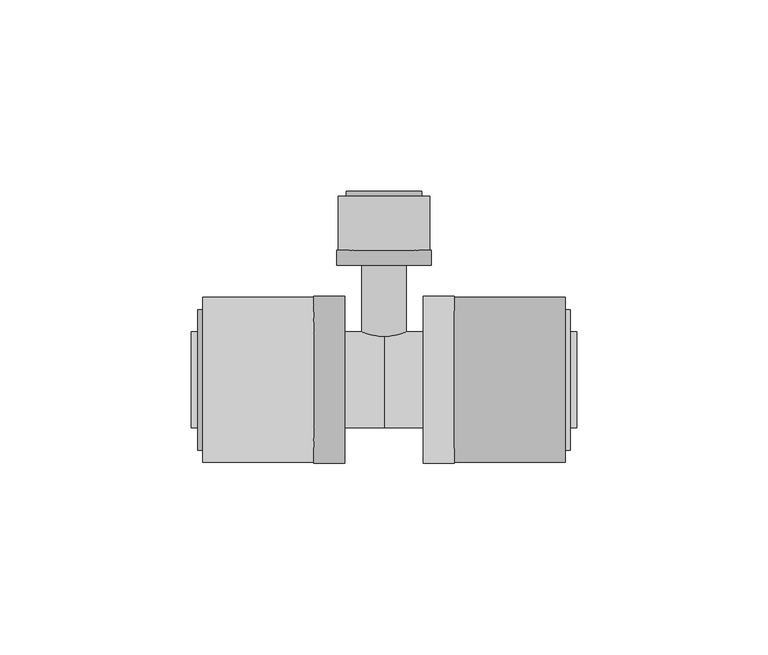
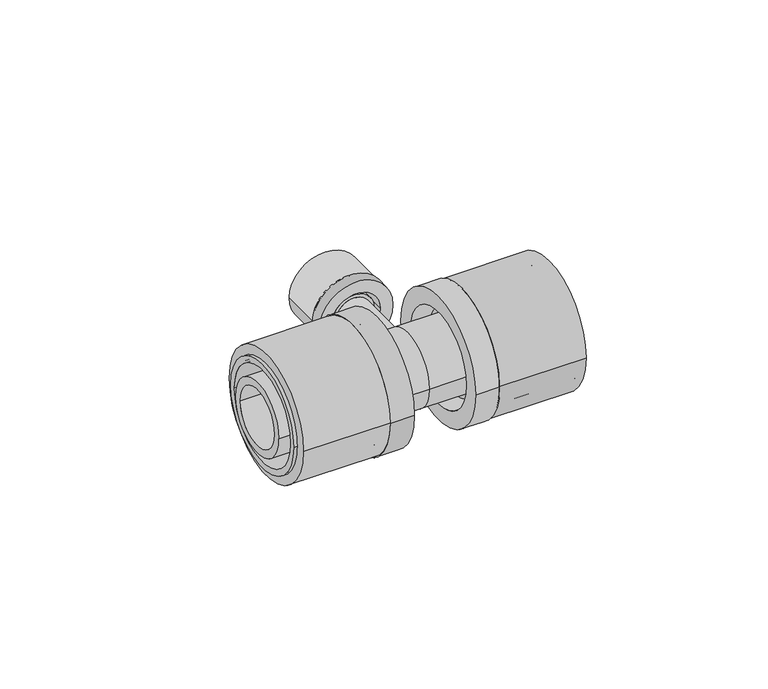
"""IFC4 building model written with IfcOpenShell, lengths in millimetres: pipe fitting geometry, FASTLOC_T-piece_LX : FSL T-Piece LX CZ."""

from ifc_helpers import new_model, si_unit, point, frame, origin, origin_2d, place, context, project, spatial, polyline, circle_curve, trimmed, segment, composite_curve, outline, extrude, source, transform, mapped, element, save
from ifc_brep_helpers import plane_surface, cylinder_surface, revolved_surface, advanced_brep


def pipe_fitting_a094db19(model_context):
    return source(origin(), model_context, "Body", "SolidModel", [
        extrude(outline(composite_curve([segment(trimmed(circle_curve(origin_2d(), 21.5), [point((-21.5, 0.0))], [point((21.5, 0.0))], False, "CARTESIAN"), True, "CONTINUOUS"), segment(trimmed(circle_curve(origin_2d(), 21.5), [point((21.5, 0.0))], [point((-21.5, 0.0))], False, "CARTESIAN"), True, "CONTINUOUS")], self_intersect=False), holes=[composite_curve([segment(trimmed(circle_curve(origin_2d(), 16.85), [point((-16.85, 0.0))], [point((16.85, 0.0))], True, "CARTESIAN"), True, "CONTINUOUS"), segment(trimmed(circle_curve(origin_2d(), 16.85), [point((16.85, 0.0))], [point((-16.85, 0.0))], True, "CARTESIAN"), True, "CONTINUOUS")], self_intersect=False)]), frame((18.3, 0.0, 0.0), z_axis=(1.0, 0.0, 0.0), x_axis=(0.0, 1.0, 0.0)), (0.0, 0.0, 1.0), 29.0),
        advanced_brep(
        [(18.3, 21.8, 0.0), (18.3, -21.8, 0.0), (10.3, -21.8, 0.0), (10.3, 21.8, 0.0), (48.6, 18.35, 0.0), (48.6, -18.35, 0.0), (18.3, -18.35, 0.0), (18.3, 18.35, 0.0), (10.3, 16.2, 0.0), (10.3, -16.2, 0.0), (48.6, -16.2, 0.0), (48.6, 16.2, 0.0)],
        [
            (0, 1, circle_curve(frame((18.3, 0.0, 0.0), z_axis=(-1.0, 0.0, 0.0), x_axis=(0.0, -1.0, 0.0)), 21.8)),
            (1, 2),
            (2, 3, circle_curve(frame((10.3, 0.0, 0.0), z_axis=(1.0, 0.0, 0.0), x_axis=(0.0, -1.0, 0.0)), 21.8)),
            (3, 0),
            (4, 5, circle_curve(frame((48.6, 0.0, 0.0), z_axis=(-1.0, 0.0, 0.0), x_axis=(0.0, -1.0, 0.0)), 18.35)),
            (5, 6),
            (6, 7, circle_curve(frame((18.3, 0.0, 0.0), z_axis=(1.0, 0.0, 0.0), x_axis=(0.0, -1.0, 0.0)), 18.35)),
            (7, 4),
            (8, 9, circle_curve(frame((10.3, 0.0, 0.0), z_axis=(-1.0, 0.0, 0.0), x_axis=(0.0, -1.0, 0.0)), 16.2)),
            (9, 10),
            (10, 11, circle_curve(frame((48.6, 0.0, 0.0), z_axis=(1.0, 0.0, 0.0), x_axis=(0.0, -1.0, 0.0)), 16.2)),
            (11, 8),
            (1, 0, circle_curve(frame((18.3, 0.0, 0.0), z_axis=(-1.0, 0.0, 0.0), x_axis=(0.0, 1.0, 0.0)), 21.8)),
            (3, 2, circle_curve(frame((10.3, 0.0, 0.0), z_axis=(1.0, 0.0, 0.0), x_axis=(0.0, 1.0, 0.0)), 21.8)),
            (6, 7, circle_curve(frame((18.3, 0.0, 0.0), z_axis=(-1.0, 0.0, 0.0), x_axis=(0.0, 1.0, 0.0)), 18.35)),
            (5, 4, circle_curve(frame((48.6, 0.0, 0.0), z_axis=(-1.0, 0.0, 0.0), x_axis=(0.0, 1.0, 0.0)), 18.35)),
            (10, 11, circle_curve(frame((48.6, 0.0, 0.0), z_axis=(-1.0, 0.0, 0.0), x_axis=(0.0, 1.0, 0.0)), 16.2)),
            (9, 8, circle_curve(frame((10.3, 0.0, 0.0), z_axis=(-1.0, 0.0, 0.0), x_axis=(0.0, 1.0, 0.0)), 16.2)),
        ],
        [
            cylinder_surface(frame((10.3, 0.0, 0.0), z_axis=(1.0, 0.0, 0.0), x_axis=(0.0, -1.0, 0.0)), 21.8),
            cylinder_surface(frame((10.3, 0.0, 0.0), z_axis=(1.0, 0.0, 0.0), x_axis=(0.0, -1.0, 0.0)), 18.35),
            revolved_surface(polyline([(48.599999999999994, -16.2, 0.0), (10.3, -16.2, 0.0)]), (10.3, 0.0, 0.0), (1.0, 0.0, 0.0)),
            cylinder_surface(frame((10.3, 0.0, 0.0), z_axis=(1.0, 0.0, 0.0), x_axis=(0.0, 1.0, 0.0)), 21.8),
            plane_surface(frame((18.3, 0.0, 0.0), z_axis=(1.0, 0.0, 0.0), x_axis=(0.0, 1.0, 0.0))),
            cylinder_surface(frame((10.3, 0.0, 0.0), z_axis=(1.0, 0.0, 0.0), x_axis=(0.0, 1.0, 0.0)), 18.35),
            plane_surface(frame((48.6, 0.0, 0.0), z_axis=(1.0, 0.0, 0.0), x_axis=(0.0, 1.0, 0.0))),
            revolved_surface(polyline([(48.599999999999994, 16.2, 0.0), (10.3, 16.2, 0.0)]), (10.3, 0.0, 0.0), (1.0, 0.0, 0.0)),
            plane_surface(frame((10.3, 0.0, 0.0), z_axis=(-1.0, 0.0, 0.0), x_axis=(0.0, 1.0, 0.0))),
        ],
        [
            (0, [[1, 2, 3, 4]]),
            (1, [[5, 6, 7, 8]]),
            (2, [[9, 10, 11, 12]]),
            (3, [[13, -4, 14, -2]]),
            (4, [[-13, -1], [15, -7]]),
            (5, [[16, -8, -15, -6]]),
            (6, [[-16, -5], [17, -11]]),
            (7, [[18, -12, -17, -10]]),
            (8, [[-14, -3], [-18, -9]]),
        ],
    ),
        extrude(outline(composite_curve([segment(trimmed(circle_curve(origin_2d(), 21.5), [point((21.5, 0.0))], [point((-21.5, 0.0))], False, "CARTESIAN"), True, "CONTINUOUS"), segment(trimmed(circle_curve(origin_2d(), 21.5), [point((-21.5, 0.0))], [point((21.5, 0.0))], False, "CARTESIAN"), True, "CONTINUOUS")], self_intersect=False), holes=[composite_curve([segment(trimmed(circle_curve(origin_2d(), 16.85), [point((16.85, 0.0))], [point((-16.85, 0.0))], True, "CARTESIAN"), True, "CONTINUOUS"), segment(trimmed(circle_curve(origin_2d(), 16.85), [point((-16.85, 0.0))], [point((16.85, 0.0))], True, "CARTESIAN"), True, "CONTINUOUS")], self_intersect=False)]), frame((-47.3, 0.0, 0.0), z_axis=(1.0, 0.0, 0.0), x_axis=(0.0, 1.0, 0.0)), (0.0, 0.0, 1.0), 29.0),
        advanced_brep(
        [(-18.3, -21.8, 0.0), (-18.3, 21.8, 0.0), (-10.3, 21.8, 0.0), (-10.3, -21.8, 0.0), (-48.6, -18.35, 0.0), (-48.6, 18.35, 0.0), (-18.3, 18.35, 0.0), (-18.3, -18.35, 0.0), (-10.3, -16.2, 0.0), (-10.3, 16.2, 0.0), (-48.6, 16.2, 0.0), (-48.6, -16.2, 0.0)],
        [
            (0, 1, circle_curve(frame((-18.3, 0.0, 0.0), z_axis=(1.0, 0.0, 0.0), x_axis=(0.0, 1.0, 0.0)), 21.8)),
            (1, 2),
            (2, 3, circle_curve(frame((-10.3, 0.0, 0.0), z_axis=(-1.0, 0.0, 0.0), x_axis=(0.0, 1.0, 0.0)), 21.8)),
            (3, 0),
            (4, 5, circle_curve(frame((-48.6, 0.0, 0.0), z_axis=(1.0, 0.0, 0.0), x_axis=(0.0, 1.0, 0.0)), 18.35)),
            (5, 6),
            (6, 7, circle_curve(frame((-18.3, 0.0, 0.0), z_axis=(-1.0, 0.0, 0.0), x_axis=(0.0, 1.0, 0.0)), 18.35)),
            (7, 4),
            (8, 9, circle_curve(frame((-10.3, 0.0, 0.0), z_axis=(1.0, 0.0, 0.0), x_axis=(0.0, 1.0, 0.0)), 16.2)),
            (9, 10),
            (10, 11, circle_curve(frame((-48.6, 0.0, 0.0), z_axis=(-1.0, 0.0, 0.0), x_axis=(0.0, 1.0, 0.0)), 16.2)),
            (11, 8),
            (1, 0, circle_curve(frame((-18.3, 0.0, 0.0), z_axis=(1.0, 0.0, 0.0), x_axis=(0.0, -1.0, 0.0)), 21.8)),
            (3, 2, circle_curve(frame((-10.3, 0.0, 0.0), z_axis=(-1.0, 0.0, 0.0), x_axis=(0.0, -1.0, 0.0)), 21.8)),
            (6, 7, circle_curve(frame((-18.3, 0.0, 0.0), z_axis=(1.0, 0.0, 0.0), x_axis=(0.0, -1.0, 0.0)), 18.35)),
            (5, 4, circle_curve(frame((-48.6, 0.0, 0.0), z_axis=(1.0, 0.0, 0.0), x_axis=(0.0, -1.0, 0.0)), 18.35)),
            (10, 11, circle_curve(frame((-48.6, 0.0, 0.0), z_axis=(1.0, 0.0, 0.0), x_axis=(0.0, -1.0, 0.0)), 16.2)),
            (9, 8, circle_curve(frame((-10.3, 0.0, 0.0), z_axis=(1.0, 0.0, 0.0), x_axis=(0.0, -1.0, 0.0)), 16.2)),
        ],
        [
            cylinder_surface(frame((-10.3, 0.0, 0.0), z_axis=(-1.0, 0.0, 0.0), x_axis=(0.0, 1.0, 0.0)), 21.8),
            cylinder_surface(frame((-10.3, 0.0, 0.0), z_axis=(-1.0, 0.0, 0.0), x_axis=(0.0, 1.0, 0.0)), 18.35),
            revolved_surface(polyline([(-48.599999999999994, 16.2, 0.0), (-10.3, 16.2, 0.0)]), (-10.3, 0.0, 0.0), (-1.0, 0.0, 0.0)),
            cylinder_surface(frame((-10.3, 0.0, 0.0), z_axis=(-1.0, 0.0, 0.0), x_axis=(0.0, -1.0, 0.0)), 21.8),
            plane_surface(frame((-18.3, 0.0, 0.0), z_axis=(-1.0, 0.0, 0.0), x_axis=(0.0, -1.0, 0.0))),
            cylinder_surface(frame((-10.3, 0.0, 0.0), z_axis=(-1.0, 0.0, 0.0), x_axis=(0.0, -1.0, 0.0)), 18.35),
            plane_surface(frame((-48.6, 0.0, 0.0), z_axis=(-1.0, 0.0, 0.0), x_axis=(0.0, -1.0, 0.0))),
            revolved_surface(polyline([(-48.599999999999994, -16.2, 0.0), (-10.3, -16.2, 0.0)]), (-10.3, 0.0, 0.0), (-1.0, 0.0, 0.0)),
            plane_surface(frame((-10.3, 0.0, 0.0), z_axis=(1.0, 0.0, 0.0), x_axis=(0.0, -1.0, 0.0))),
        ],
        [
            (0, [[1, 2, 3, 4]]),
            (1, [[5, 6, 7, 8]]),
            (2, [[9, 10, 11, 12]]),
            (3, [[13, -4, 14, -2]]),
            (4, [[-13, -1], [15, -7]]),
            (5, [[16, -8, -15, -6]]),
            (6, [[-16, -5], [17, -11]]),
            (7, [[18, -12, -17, -10]]),
            (8, [[-14, -3], [-18, -9]]),
        ],
    ),
        extrude(outline(composite_curve([segment(trimmed(circle_curve(origin_2d(), 12.0), [point((0.0, 12.0))], [point((0.0, -12.0))], False, "CARTESIAN"), True, "CONTINUOUS"), segment(trimmed(circle_curve(origin_2d(), 12.0), [point((0.0, -12.0))], [point((0.0, 12.0))], False, "CARTESIAN"), True, "CONTINUOUS")], self_intersect=False), holes=[composite_curve([segment(trimmed(circle_curve(origin_2d(), 8.85), [point((0.0, 8.85))], [point((0.0, -8.85))], True, "CARTESIAN"), True, "CONTINUOUS"), segment(trimmed(circle_curve(origin_2d(), 8.85), [point((0.0, -8.85))], [point((0.0, 8.85))], True, "CARTESIAN"), True, "CONTINUOUS")], self_intersect=False)]), frame((0.0, 33.9, 0.0), z_axis=(0.0, 1.0, 0.0), x_axis=(0.0, 0.0, 1.0)), (0.0, 0.0, 1.0), 14.0),
        advanced_brep(
        [(-12.35, 33.9, 0.0), (12.35, 33.9, 0.0), (12.35, 29.9, 0.0), (-12.35, 29.9, 0.0), (-9.85, 49.2, 0.0), (9.85, 49.2, 0.0), (9.85, 33.9, 0.0), (-9.85, 33.9, 0.0), (-8.15, 29.9, 0.0), (8.15, 29.9, 0.0), (8.15, 49.2, 0.0), (-8.15, 49.2, 0.0)],
        [
            (0, 1, circle_curve(frame((0.0, 33.9, 0.0), z_axis=(0.0, -1.0, 0.0), x_axis=(1.0, 0.0, 0.0)), 12.35)),
            (1, 2),
            (2, 3, circle_curve(frame((0.0, 29.9, 0.0), z_axis=(0.0, 1.0, 0.0), x_axis=(1.0, 0.0, 0.0)), 12.35)),
            (3, 0),
            (4, 5, circle_curve(frame((0.0, 49.2, 0.0), z_axis=(0.0, -1.0, 0.0), x_axis=(1.0, 0.0, 0.0)), 9.85)),
            (5, 6),
            (6, 7, circle_curve(frame((0.0, 33.9, 0.0), z_axis=(0.0, 1.0, 0.0), x_axis=(1.0, 0.0, 0.0)), 9.85)),
            (7, 4),
            (8, 9, circle_curve(frame((0.0, 29.9, 0.0), z_axis=(0.0, -1.0, 0.0), x_axis=(1.0, 0.0, 0.0)), 8.15)),
            (9, 10),
            (10, 11, circle_curve(frame((0.0, 49.2, 0.0), z_axis=(0.0, 1.0, 0.0), x_axis=(1.0, 0.0, 0.0)), 8.15)),
            (11, 8),
            (1, 0, circle_curve(frame((0.0, 33.9, 0.0), z_axis=(0.0, -1.0, 0.0), x_axis=(-1.0, 0.0, 0.0)), 12.35)),
            (3, 2, circle_curve(frame((0.0, 29.9, 0.0), z_axis=(0.0, 1.0, 0.0), x_axis=(-1.0, 0.0, 0.0)), 12.35)),
            (6, 7, circle_curve(frame((0.0, 33.9, 0.0), z_axis=(0.0, -1.0, 0.0), x_axis=(-1.0, 0.0, 0.0)), 9.85)),
            (5, 4, circle_curve(frame((0.0, 49.2, 0.0), z_axis=(0.0, -1.0, 0.0), x_axis=(-1.0, 0.0, 0.0)), 9.85)),
            (10, 11, circle_curve(frame((0.0, 49.2, 0.0), z_axis=(0.0, -1.0, 0.0), x_axis=(-1.0, 0.0, 0.0)), 8.15)),
            (9, 8, circle_curve(frame((0.0, 29.9, 0.0), z_axis=(0.0, -1.0, 0.0), x_axis=(-1.0, 0.0, 0.0)), 8.15)),
        ],
        [
            cylinder_surface(frame((0.0, 29.9, 0.0), z_axis=(0.0, 1.0, 0.0), x_axis=(1.0, 0.0, 0.0)), 12.35),
            cylinder_surface(frame((0.0, 29.9, 0.0), z_axis=(0.0, 1.0, 0.0), x_axis=(1.0, 0.0, 0.0)), 9.85),
            revolved_surface(polyline([(8.15, 49.2, 0.0), (8.15, 29.9, 0.0)]), (0.0, 29.9, 0.0), (0.0, 1.0, 0.0)),
            cylinder_surface(frame((0.0, 29.9, 0.0), z_axis=(0.0, 1.0, 0.0), x_axis=(-1.0, 0.0, 0.0)), 12.35),
            plane_surface(frame((0.0, 33.9, 0.0), z_axis=(0.0, 1.0, 0.0), x_axis=(-1.0, 0.0, 0.0))),
            cylinder_surface(frame((0.0, 29.9, 0.0), z_axis=(0.0, 1.0, 0.0), x_axis=(-1.0, 0.0, 0.0)), 9.85),
            plane_surface(frame((0.0, 49.2, 0.0), z_axis=(0.0, 1.0, 0.0), x_axis=(-1.0, 0.0, 0.0))),
            revolved_surface(polyline([(-8.15, 49.2, 0.0), (-8.15, 29.9, 0.0)]), (0.0, 29.9, 0.0), (0.0, 1.0, 0.0)),
            plane_surface(frame((0.0, 29.9, 0.0), z_axis=(0.0, -1.0, 0.0), x_axis=(-1.0, 0.0, 0.0))),
        ],
        [
            (0, [[1, 2, 3, 4]]),
            (1, [[5, 6, 7, 8]]),
            (2, [[9, 10, 11, 12]]),
            (3, [[13, -4, 14, -2]]),
            (4, [[-13, -1], [15, -7]]),
            (5, [[16, -8, -15, -6]]),
            (6, [[-16, -5], [17, -11]]),
            (7, [[18, -12, -17, -10]]),
            (8, [[-14, -3], [-18, -9]]),
        ],
    ),
        advanced_brep(
        [(0.0, 12.5, 0.0), (0.0, -12.5, 0.0), (-15.3, -12.5, 0.0), (-15.3, 12.5, 0.0), (15.3, 12.5, 0.0), (15.3, -12.5, 0.0), (18.3, 14.1, 0.0), (18.3, -14.1, 0.0), (15.3, -14.1, 0.0), (15.3, 14.1, 0.0), (50.3, 12.5, 0.0), (50.3, -12.5, 0.0), (18.3, -12.5, 0.0), (18.3, 12.5, 0.0), (-18.3, 12.5, 0.0), (-18.3, -12.5, 0.0), (-50.3, -12.5, 0.0), (-50.3, 12.5, 0.0), (-15.3, 14.1, 0.0), (-15.3, -14.1, 0.0), (-18.3, -14.1, 0.0), (-18.3, 14.1, 0.0), (50.3, -9.85, 0.0), (50.3, 9.85, 0.0), (-50.3, 9.85, 0.0), (-50.3, -9.85, 0.0), (0.0, 9.85, 0.0), (0.0, -9.85, 0.0)],
        [
            (0, 1, circle_curve(frame((0.0, 0.0, 0.0), z_axis=(-1.0, 0.0, 0.0), x_axis=(0.0, -1.0, 0.0)), 12.5)),
            (1, 2),
            (2, 3, circle_curve(frame((-15.3, 0.0, 0.0), z_axis=(1.0, 0.0, 0.0), x_axis=(0.0, -1.0, 0.0)), 12.5)),
            (3, 0),
            (4, 5, circle_curve(frame((15.3, 0.0, 0.0), z_axis=(-1.0, 0.0, 0.0), x_axis=(0.0, -1.0, 0.0)), 12.5)),
            (5, 1),
            (0, 4),
            (6, 7, circle_curve(frame((18.3, 0.0, 0.0), z_axis=(-1.0, 0.0, 0.0), x_axis=(0.0, -1.0, 0.0)), 14.1)),
            (7, 8),
            (8, 9, circle_curve(frame((15.3, 0.0, 0.0), z_axis=(1.0, 0.0, 0.0), x_axis=(0.0, -1.0, 0.0)), 14.1)),
            (9, 6),
            (10, 11, circle_curve(frame((50.3, 0.0, 0.0), z_axis=(-1.0, 0.0, 0.0), x_axis=(0.0, -1.0, 0.0)), 12.5)),
            (11, 12),
            (12, 13, circle_curve(frame((18.3, 0.0, 0.0), z_axis=(1.0, 0.0, 0.0), x_axis=(0.0, -1.0, 0.0)), 12.5)),
            (13, 10),
            (14, 15, circle_curve(frame((-18.3, 0.0, 0.0), z_axis=(-1.0, 0.0, 0.0), x_axis=(0.0, -1.0, 0.0)), 12.5)),
            (15, 16),
            (16, 17, circle_curve(frame((-50.3, 0.0, 0.0), z_axis=(1.0, 0.0, 0.0), x_axis=(0.0, -1.0, 0.0)), 12.5)),
            (17, 14),
            (18, 19, circle_curve(frame((-15.3, 0.0, 0.0), z_axis=(-1.0, 0.0, 0.0), x_axis=(0.0, -1.0, 0.0)), 14.1)),
            (19, 20),
            (20, 21, circle_curve(frame((-18.3, 0.0, 0.0), z_axis=(1.0, 0.0, 0.0), x_axis=(0.0, -1.0, 0.0)), 14.1)),
            (21, 18),
            (18, 19, circle_curve(frame((-15.3, 0.0, 0.0), z_axis=(1.0, 0.0, 0.0), x_axis=(0.0, 1.0, 0.0)), 14.1)),
            (2, 3, circle_curve(frame((-15.3, 0.0, 0.0), z_axis=(-1.0, 0.0, 0.0), x_axis=(0.0, 1.0, 0.0)), 12.5)),
            (1, 0, circle_curve(frame((0.0, 0.0, 0.0), z_axis=(-1.0, 0.0, 0.0), x_axis=(0.0, 1.0, 0.0)), 12.5)),
            (5, 4, circle_curve(frame((15.3, 0.0, 0.0), z_axis=(-1.0, 0.0, 0.0), x_axis=(0.0, 1.0, 0.0)), 12.5)),
            (8, 9, circle_curve(frame((15.3, 0.0, 0.0), z_axis=(-1.0, 0.0, 0.0), x_axis=(0.0, 1.0, 0.0)), 14.1)),
            (7, 6, circle_curve(frame((18.3, 0.0, 0.0), z_axis=(-1.0, 0.0, 0.0), x_axis=(0.0, 1.0, 0.0)), 14.1)),
            (12, 13, circle_curve(frame((18.3, 0.0, 0.0), z_axis=(-1.0, 0.0, 0.0), x_axis=(0.0, 1.0, 0.0)), 12.5)),
            (11, 10, circle_curve(frame((50.3, 0.0, 0.0), z_axis=(-1.0, 0.0, 0.0), x_axis=(0.0, 1.0, 0.0)), 12.5)),
            (22, 23, circle_curve(frame((50.3, 0.0, 0.0), z_axis=(-1.0, 0.0, 0.0), x_axis=(0.0, 1.0, 0.0)), 9.85)),
            (23, 22, circle_curve(frame((50.3, 0.0, 0.0), z_axis=(-1.0, 0.0, 0.0), x_axis=(0.0, -1.0, 0.0)), 9.85)),
            (16, 17, circle_curve(frame((-50.3, 0.0, 0.0), z_axis=(-1.0, 0.0, 0.0), x_axis=(0.0, 1.0, 0.0)), 12.5)),
            (24, 25, circle_curve(frame((-50.3, 0.0, 0.0), z_axis=(1.0, 0.0, 0.0), x_axis=(0.0, 1.0, 0.0)), 9.85)),
            (25, 24, circle_curve(frame((-50.3, 0.0, 0.0), z_axis=(1.0, 0.0, 0.0), x_axis=(0.0, -1.0, 0.0)), 9.85)),
            (15, 14, circle_curve(frame((-18.3, 0.0, 0.0), z_axis=(-1.0, 0.0, 0.0), x_axis=(0.0, 1.0, 0.0)), 12.5)),
            (20, 21, circle_curve(frame((-18.3, 0.0, 0.0), z_axis=(-1.0, 0.0, 0.0), x_axis=(0.0, 1.0, 0.0)), 14.1)),
            (26, 27, circle_curve(frame((0.0, 0.0, 0.0), z_axis=(-1.0, 0.0, 0.0), x_axis=(0.0, -1.0, 0.0)), 9.85)),
            (27, 22),
            (23, 26),
            (25, 27),
            (26, 24),
            (27, 26, circle_curve(frame((0.0, 0.0, 0.0), z_axis=(-1.0, 0.0, 0.0), x_axis=(0.0, 1.0, 0.0)), 9.85)),
        ],
        [
            cylinder_surface(frame((0.0, 0.0, 0.0), z_axis=(1.0, 0.0, 0.0), x_axis=(0.0, -1.0, 0.0)), 12.5),
            cylinder_surface(frame((0.0, 0.0, 0.0), z_axis=(1.0, 0.0, 0.0), x_axis=(0.0, -1.0, 0.0)), 14.1),
            plane_surface(frame((-15.3, 0.0, 0.0), z_axis=(1.0, 0.0, 0.0), x_axis=(0.0, 1.0, 0.0))),
            cylinder_surface(frame((0.0, 0.0, 0.0), z_axis=(1.0, 0.0, 0.0), x_axis=(0.0, 1.0, 0.0)), 12.5),
            plane_surface(frame((15.3, 0.0, 0.0), z_axis=(-1.0, 0.0, 0.0), x_axis=(0.0, 1.0, 0.0))),
            cylinder_surface(frame((0.0, 0.0, 0.0), z_axis=(1.0, 0.0, 0.0), x_axis=(0.0, 1.0, 0.0)), 14.1),
            plane_surface(frame((18.3, 0.0, 0.0), z_axis=(1.0, 0.0, 0.0), x_axis=(0.0, 1.0, 0.0))),
            plane_surface(frame((50.3, 0.0, 0.0), z_axis=(1.0, 0.0, 0.0), x_axis=(0.0, 1.0, 0.0))),
            plane_surface(frame((-50.3, 0.0, 0.0), z_axis=(-1.0, 0.0, 0.0), x_axis=(0.0, 1.0, 0.0))),
            plane_surface(frame((-18.3, 0.0, 0.0), z_axis=(-1.0, 0.0, 0.0), x_axis=(0.0, 1.0, 0.0))),
            revolved_surface(polyline([(50.3, -9.85, 0.0), (0.0, -9.85, 0.0)]), (0.0, 0.0, 0.0), (1.0, 0.0, 0.0)),
            revolved_surface(polyline([(0.0, -9.85, 0.0), (-50.3, -9.85, 0.0)]), (0.0, 0.0, 0.0), (1.0, 0.0, 0.0)),
            revolved_surface(polyline([(50.3, 9.85, 0.0), (0.0, 9.85, 0.0)]), (0.0, 0.0, 0.0), (1.0, 0.0, 0.0)),
            revolved_surface(polyline([(0.0, 9.85, 0.0), (-50.3, 9.85, 0.0)]), (0.0, 0.0, 0.0), (1.0, 0.0, 0.0)),
        ],
        [
            (0, [[1, 2, 3, 4]]),
            (0, [[5, 6, -1, 7]]),
            (1, [[8, 9, 10, 11]]),
            (0, [[12, 13, 14, 15]]),
            (0, [[16, 17, 18, 19]]),
            (1, [[20, 21, 22, 23]]),
            (2, [[24, -20], [25, -3]]),
            (3, [[26, -4, -25, -2]]),
            (3, [[27, -7, -26, -6]]),
            (4, [[28, -10], [-27, -5]]),
            (5, [[29, -11, -28, -9]]),
            (6, [[-29, -8], [30, -14]]),
            (3, [[31, -15, -30, -13]]),
            (7, [[-31, -12], [32, 33]]),
            (8, [[34, -18], [35, 36]]),
            (3, [[37, -19, -34, -17]]),
            (9, [[38, -22], [-37, -16]]),
            (5, [[-24, -23, -38, -21]]),
            (10, [[39, 40, -33, 41]]),
            (11, [[-36, 42, -39, 43]]),
            (12, [[44, -41, -32, -40]]),
            (13, [[-35, -43, -44, -42]]),
        ],
    ),
        advanced_brep(
        [(3.95, 48.9, 0.0), (-3.95, 48.9, 0.0), (-3.95, 0.0, 0.0), (3.95, 0.0, 0.0), (5.8, 0.0, 0.0), (-5.8, 0.0, 0.0), (-5.8, 31.19, 0.0), (5.8, 31.19, 0.0), (6.9, 31.19, 0.0), (-6.9, 31.19, 0.0), (-6.9, 33.9, 0.0), (6.9, 33.9, 0.0), (5.8, 33.9, 0.0), (-5.8, 33.9, 0.0), (-5.8, 48.9, 0.0), (5.8, 48.9, 0.0)],
        [
            (0, 1, circle_curve(frame((0.0, 48.9, 0.0), z_axis=(0.0, 1.0, 0.0), x_axis=(-1.0, 0.0, 0.0)), 3.95)),
            (1, 2),
            (2, 3, circle_curve(frame((0.0, 0.0, 0.0), z_axis=(0.0, -1.0, 0.0), x_axis=(-1.0, 0.0, 0.0)), 3.95)),
            (3, 0),
            (4, 5, circle_curve(frame((0.0, 0.0, 0.0), z_axis=(0.0, 1.0, 0.0), x_axis=(-1.0, 0.0, 0.0)), 5.8)),
            (5, 6),
            (6, 7, circle_curve(frame((0.0, 31.19, 0.0), z_axis=(0.0, -1.0, 0.0), x_axis=(-1.0, 0.0, 0.0)), 5.8)),
            (7, 4),
            (8, 9, circle_curve(frame((0.0, 31.19, 0.0), z_axis=(0.0, 1.0, 0.0), x_axis=(-1.0, 0.0, 0.0)), 6.9)),
            (9, 10),
            (10, 11, circle_curve(frame((0.0, 33.9, 0.0), z_axis=(0.0, -1.0, 0.0), x_axis=(-1.0, 0.0, 0.0)), 6.9)),
            (11, 8),
            (12, 13, circle_curve(frame((0.0, 33.9, 0.0), z_axis=(0.0, 1.0, 0.0), x_axis=(-1.0, 0.0, 0.0)), 5.8)),
            (13, 14),
            (14, 15, circle_curve(frame((0.0, 48.9, 0.0), z_axis=(0.0, -1.0, 0.0), x_axis=(-1.0, 0.0, 0.0)), 5.8)),
            (15, 12),
            (1, 0, circle_curve(frame((0.0, 48.9, 0.0), z_axis=(0.0, 1.0, 0.0), x_axis=(1.0, 0.0, 0.0)), 3.95)),
            (3, 2, circle_curve(frame((0.0, 0.0, 0.0), z_axis=(0.0, -1.0, 0.0), x_axis=(1.0, 0.0, 0.0)), 3.95)),
            (4, 5, circle_curve(frame((0.0, 0.0, 0.0), z_axis=(0.0, -1.0, 0.0), x_axis=(1.0, 0.0, 0.0)), 5.8)),
            (7, 6, circle_curve(frame((0.0, 31.19, 0.0), z_axis=(0.0, -1.0, 0.0), x_axis=(1.0, 0.0, 0.0)), 5.8)),
            (8, 9, circle_curve(frame((0.0, 31.19, 0.0), z_axis=(0.0, -1.0, 0.0), x_axis=(1.0, 0.0, 0.0)), 6.9)),
            (11, 10, circle_curve(frame((0.0, 33.9, 0.0), z_axis=(0.0, -1.0, 0.0), x_axis=(1.0, 0.0, 0.0)), 6.9)),
            (12, 13, circle_curve(frame((0.0, 33.9, 0.0), z_axis=(0.0, -1.0, 0.0), x_axis=(1.0, 0.0, 0.0)), 5.8)),
            (15, 14, circle_curve(frame((0.0, 48.9, 0.0), z_axis=(0.0, -1.0, 0.0), x_axis=(1.0, 0.0, 0.0)), 5.8)),
        ],
        [
            revolved_surface(polyline([(-3.95, 0.0, 0.0), (-3.95, 48.9, 0.0)]), (0.0, 0.0, 0.0), (0.0, -1.0, 0.0)),
            cylinder_surface(frame((0.0, 0.0, 0.0), z_axis=(0.0, -1.0, 0.0), x_axis=(-1.0, 0.0, 0.0)), 5.8),
            cylinder_surface(frame((0.0, 0.0, 0.0), z_axis=(0.0, -1.0, 0.0), x_axis=(-1.0, 0.0, 0.0)), 6.9),
            revolved_surface(polyline([(3.95, 0.0, 0.0), (3.95, 48.9, 0.0)]), (0.0, 0.0, 0.0), (0.0, -1.0, 0.0)),
            plane_surface(frame((0.0, 0.0, 0.0), z_axis=(0.0, -1.0, 0.0), x_axis=(1.0, 0.0, 0.0))),
            cylinder_surface(frame((0.0, 0.0, 0.0), z_axis=(0.0, -1.0, 0.0), x_axis=(1.0, 0.0, 0.0)), 5.8),
            plane_surface(frame((0.0, 31.19, 0.0), z_axis=(0.0, -1.0, 0.0), x_axis=(1.0, 0.0, 0.0))),
            cylinder_surface(frame((0.0, 0.0, 0.0), z_axis=(0.0, -1.0, 0.0), x_axis=(1.0, 0.0, 0.0)), 6.9),
            plane_surface(frame((0.0, 33.9, 0.0), z_axis=(0.0, 1.0, 0.0), x_axis=(1.0, 0.0, 0.0))),
            plane_surface(frame((0.0, 48.9, 0.0), z_axis=(0.0, 1.0, 0.0), x_axis=(1.0, 0.0, 0.0))),
        ],
        [
            (0, [[1, 2, 3, 4]]),
            (1, [[5, 6, 7, 8]]),
            (2, [[9, 10, 11, 12]]),
            (1, [[13, 14, 15, 16]]),
            (3, [[17, -4, 18, -2]]),
            (4, [[19, -5], [-18, -3]]),
            (5, [[-19, -8, 20, -6]]),
            (6, [[21, -9], [-20, -7]]),
            (7, [[-21, -12, 22, -10]]),
            (8, [[-22, -11], [23, -13]]),
            (5, [[-23, -16, 24, -14]]),
            (9, [[-24, -15], [-17, -1]]),
        ],
    ),
    ])


if __name__ == "__main__":
    model = new_model("IFC4")
    model_context = context("Model", 3, world=origin())
    ifc_project = project(units=[si_unit("LENGTHUNIT", "METRE", prefix="MILLI")], contexts=[model_context])
    site = spatial("IfcSite", under=ifc_project)
    building = spatial("IfcBuilding", under=site)
    placement = place(None, origin())
    pipe_fitting_shape = pipe_fitting_a094db19(model_context)
    element("IfcPipeFitting", 1, ObjectType="FASTLOC_T-piece_LX : FSL T-Piece LX CZ", at=placement, inside=building, context=model_context, shape_type="MappedRepresentation", body=[
        mapped(pipe_fitting_shape, transform((0.0, 0.0, 0.0), x_axis=(1.0, 0.0, 0.0), y_axis=(0.0, 1.0, 0.0), z_axis=(0.0, 0.0, 1.0))),
    ])
    save(model, "model.ifc")
